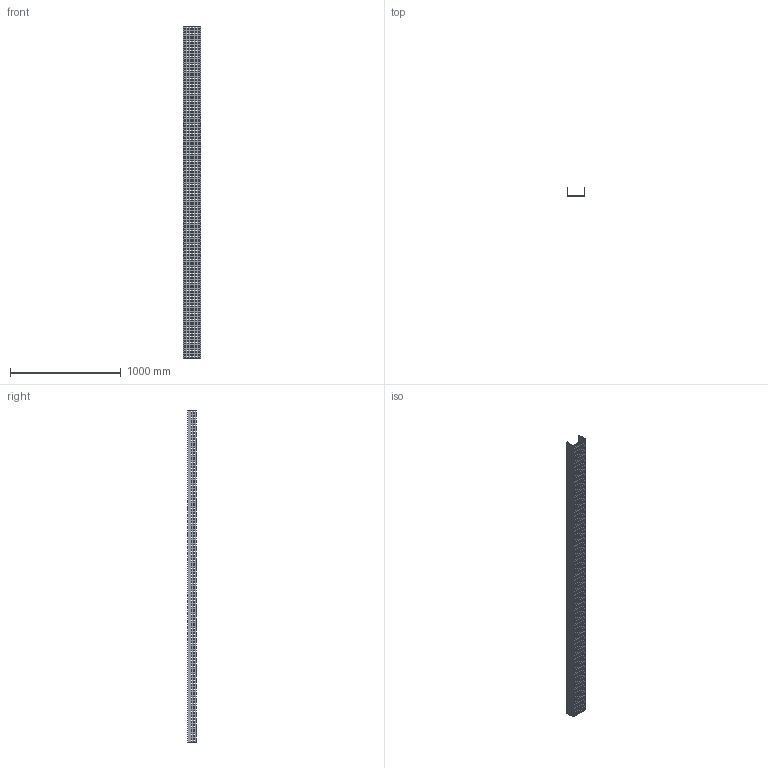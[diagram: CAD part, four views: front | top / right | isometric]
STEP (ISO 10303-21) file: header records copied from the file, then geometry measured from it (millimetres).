
FILE_DESCRIPTION (( 'STEP AP214' ), '1' );
FILE_NAME ('01B3C150.step', '2025-02-21T10:18:52', ( '' ), ( '' ), 'SwSTEP 2.0', 'SolidWorks 2023', '' );
FILE_SCHEMA (( 'AUTOMOTIVE_DESIGN' ));
Length unit declared in the file: millimetre
Products named in the file (1): 01B3C150
Bounding box: 154 x 79 x 3000 mm (x, y, z)
Volume: 2761500 mm3; surface area: 1762415 mm2
Topology: 1 solids, 1 shells, 2890 faces, 8664 edges, 5776 vertices
Faces by surface type: plane 2890
Entity records: 98231 total; most frequent: CARTESIAN_POINT 17331, ORIENTED_EDGE 17328, DIRECTION 14446, LINE 8664, EDGE_CURVE 8664, VECTOR 8664, VERTEX_POINT 5776, EDGE_LOOP 4330
